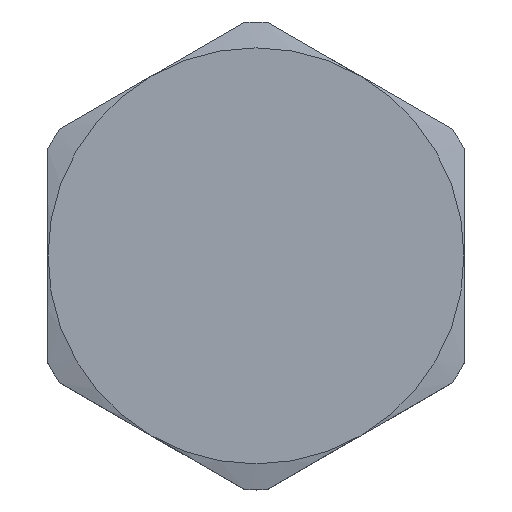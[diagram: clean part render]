
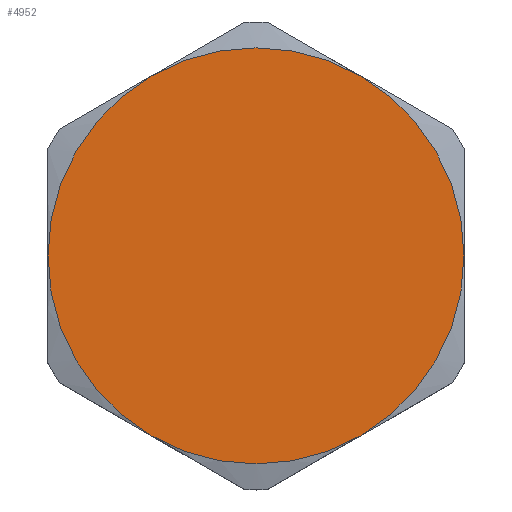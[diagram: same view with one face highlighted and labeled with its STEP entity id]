
A CAD part, top view. The second image highlights one B-rep face of the part: STEP entity #4952.
In plain terms, the highlighted planar face has unit normal (0, 0, 1).
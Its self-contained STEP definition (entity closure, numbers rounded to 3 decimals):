
#1602=CARTESIAN_POINT('',(-14.288,0.,8.026));
#1655=CARTESIAN_POINT('',(-7.144,-12.373,8.026));
#1723=CARTESIAN_POINT('',(14.288,0.,8.026));
#1776=CARTESIAN_POINT('',(7.144,12.373,8.026));
#1789=CARTESIAN_POINT('',(0.,0.,8.026));
#1790=DIRECTION('',(0.,0.,1.));
#1791=DIRECTION('',(0.5,0.866,0.));
#1792=AXIS2_PLACEMENT_3D('',#1789,#1790,#1791);
#1799=CARTESIAN_POINT('',(0.,0.,8.026));
#1800=DIRECTION('',(0.,0.,1.));
#1801=DIRECTION('',(-1.,0.,0.));
#1802=AXIS2_PLACEMENT_3D('',#1799,#1800,#1801);
#1804=CARTESIAN_POINT('',(0.,0.,8.026));
#1805=DIRECTION('',(0.,0.,1.));
#1806=DIRECTION('',(-0.5,0.866,0.));
#1807=AXIS2_PLACEMENT_3D('',#1804,#1805,#1806);
#1809=CARTESIAN_POINT('',(0.,0.,8.026));
#1810=DIRECTION('',(0.,0.,1.));
#1811=DIRECTION('',(1.,0.,0.));
#1812=AXIS2_PLACEMENT_3D('',#1809,#1810,#1811);
#1814=CARTESIAN_POINT('',(0.,0.,8.026));
#1815=DIRECTION('',(0.,0.,1.));
#1816=DIRECTION('',(0.5,-0.866,0.));
#1817=AXIS2_PLACEMENT_3D('',#1814,#1815,#1816);
#1819=CARTESIAN_POINT('',(0.,0.,8.026));
#1820=DIRECTION('',(0.,0.,1.));
#1821=DIRECTION('',(-0.5,-0.866,0.));
#1822=AXIS2_PLACEMENT_3D('',#1819,#1820,#1821);
#1860=CARTESIAN_POINT('',(7.144,-12.373,8.026));
#1918=CARTESIAN_POINT('',(-7.144,12.373,8.026));
#2255=VERTEX_POINT('',#1860);
#2256=VERTEX_POINT('',#1723);
#2257=VERTEX_POINT('',#1776);
#2258=VERTEX_POINT('',#1918);
#2259=VERTEX_POINT('',#1602);
#2260=VERTEX_POINT('',#1655);
#4936=CARTESIAN_POINT('',(0.,0.,8.026));
#4937=DIRECTION('',(0.,0.,-1.));
#4938=DIRECTION('',(0.,1.,0.));
#4939=AXIS2_PLACEMENT_3D('',#4936,#4937,#4938);
#4940=PLANE('',#4939);
#4942=ORIENTED_EDGE('',*,*,#4941,.F.);
#4943=ORIENTED_EDGE('',*,*,#4787,.F.);
#4945=ORIENTED_EDGE('',*,*,#4944,.F.);
#4946=ORIENTED_EDGE('',*,*,#4927,.F.);
#4947=ORIENTED_EDGE('',*,*,#4887,.F.);
#4949=ORIENTED_EDGE('',*,*,#4948,.F.);
#4950=EDGE_LOOP('',(#4942,#4943,#4945,#4946,#4947,#4949));
#4951=FACE_OUTER_BOUND('',#4950,.F.);
#4952=ADVANCED_FACE('',(#4951),#4940,.F.);
#1793=CIRCLE('',#1792,14.288);
#1803=CIRCLE('',#1802,14.288);
#1808=CIRCLE('',#1807,14.288);
#1813=CIRCLE('',#1812,14.288);
#1818=CIRCLE('',#1817,14.288);
#1823=CIRCLE('',#1822,14.288);
#4787=EDGE_CURVE('',#2259,#2260,#1803,.T.);
#4887=EDGE_CURVE('',#2256,#2257,#1813,.T.);
#4927=EDGE_CURVE('',#2257,#2258,#1793,.T.);
#4941=EDGE_CURVE('',#2260,#2255,#1823,.T.);
#4944=EDGE_CURVE('',#2258,#2259,#1808,.T.);
#4948=EDGE_CURVE('',#2255,#2256,#1818,.T.);
